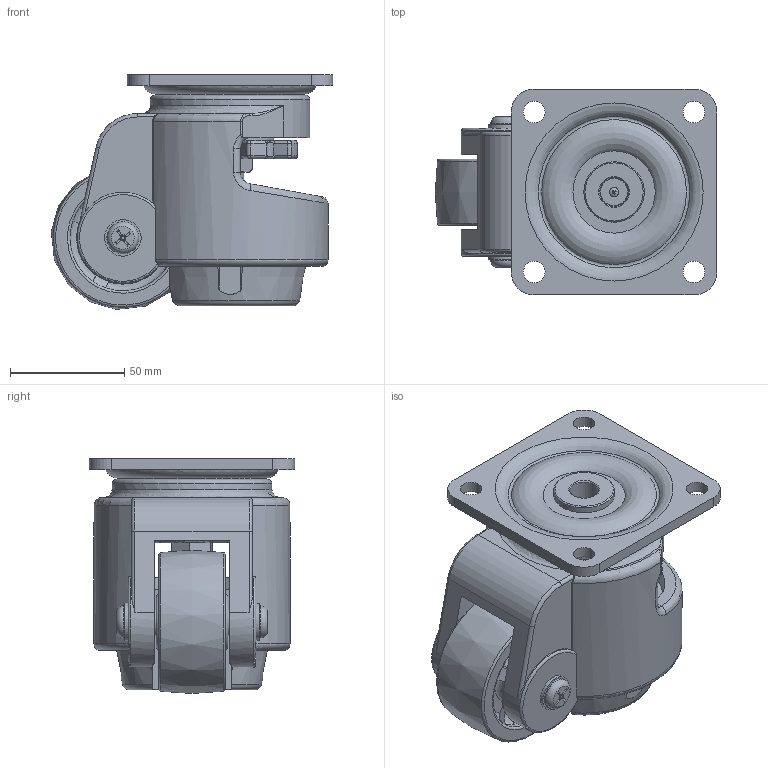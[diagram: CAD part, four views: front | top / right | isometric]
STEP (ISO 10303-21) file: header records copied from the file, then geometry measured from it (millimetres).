
FILE_DESCRIPTION((' '),'2;1');
FILE_NAME('Y:\00. A standard brand\06. 3D Modeling\외부전송용_STEP\CARRYMASTER(STEP)\AC-600FP.stp.stp','2011-11-22T13:37:33',(' '),(' '),' ','ACIS',' ');
FILE_SCHEMA(('CONFIG_CONTROL_DESIGN'));
Length unit declared in the file: millimetre
Products named in the file (1): Y:\00. A standard brand\06. 3D Modeling\외부전송용_STEP\CARRYMASTER(STEP)\AC-600FP.stp.stp
Bounding box: 123.37 x 90 x 102.97 mm (x, y, z)
Volume: 438632.9 mm3; surface area: 125179.4 mm2
Topology: 4 solids, 7 shells, 758 faces, 1997 edges, 1219 vertices
Faces by surface type: plane 282, cylinder 220, bspline 108, sphere 69, torus 64, cone 15
Full cylindrical faces by diameter (mm): 1.6 x1, 2 x1, 3 x1, 4 x1, 8 x2, 8.7 x1, 9.5 x4, 12 x4, 12.2 x1, 12.5 x1, 12.9 x2, 14 x2, 16 x1, 16.5 x1, 20 x2, 24 x2, 25 x1, 26.5 x1, 30 x1, 38.5 x1, 40.02 x1, 41.22 x1, 41.5 x1, 46.5 x2, 70 x1
Entity records: 29611 total; most frequent: CARTESIAN_POINT 11991, DIRECTION 3678, ORIENTED_EDGE 3616, EDGE_CURVE 1808, AXIS2_PLACEMENT_3D 1475, VERTEX_POINT 1136, EDGE_LOOP 908, CIRCLE 789
